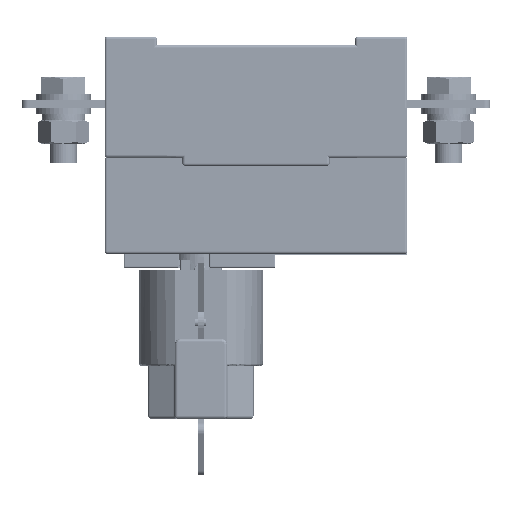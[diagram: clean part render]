
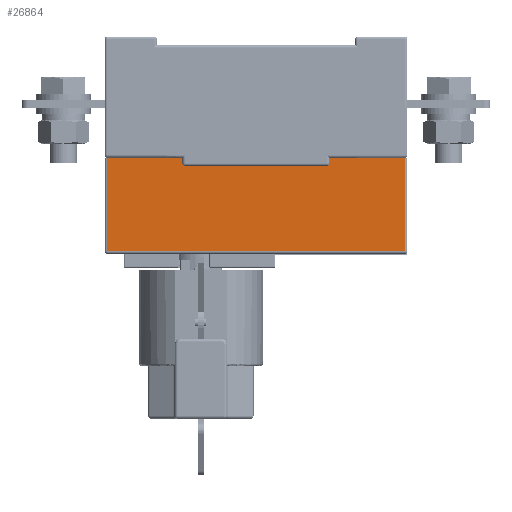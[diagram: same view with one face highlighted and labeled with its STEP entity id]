
A CAD part, front view. The second image highlights one B-rep face of the part: STEP entity #26864.
In plain terms, the highlighted planar face has unit normal (0, -1, 0).
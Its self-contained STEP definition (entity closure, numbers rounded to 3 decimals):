
#25012=DIRECTION('',(0.,0.,1.));
#25013=VECTOR('',#25012,34.);
#25014=CARTESIAN_POINT('',(54.,-37.5,-16.5));
#25015=LINE('',#25014,#25013);
#25016=DIRECTION('',(1.,0.,0.));
#25017=VECTOR('',#25016,108.);
#25018=CARTESIAN_POINT('',(-54.,-37.5,-16.5));
#25019=LINE('',#25018,#25017);
#25020=DIRECTION('',(0.,0.,-1.));
#25021=VECTOR('',#25020,34.);
#25022=CARTESIAN_POINT('',(-54.,-37.5,17.5));
#25023=LINE('',#25022,#25021);
#25024=DIRECTION('',(1.,0.,0.));
#25025=VECTOR('',#25024,108.);
#25026=CARTESIAN_POINT('',(-54.,-37.5,17.5));
#25027=LINE('',#25026,#25025);
#26721=CARTESIAN_POINT('',(54.,-37.5,17.5));
#26723=VERTEX_POINT('',#26721);
#26727=CARTESIAN_POINT('',(54.,-37.5,-16.5));
#26728=VERTEX_POINT('',#26727);
#26730=CARTESIAN_POINT('',(-54.,-37.5,17.5));
#26732=VERTEX_POINT('',#26730);
#26733=CARTESIAN_POINT('',(-54.,-37.5,-16.5));
#26734=VERTEX_POINT('',#26733);
#26849=CARTESIAN_POINT('',(0.,-37.5,0.));
#26850=DIRECTION('',(0.,1.,0.));
#26851=DIRECTION('',(1.,0.,0.));
#26852=AXIS2_PLACEMENT_3D('',#26849,#26850,#26851);
#26853=PLANE('',#26852);
#26855=ORIENTED_EDGE('',*,*,#26854,.F.);
#26857=ORIENTED_EDGE('',*,*,#26856,.F.);
#26859=ORIENTED_EDGE('',*,*,#26858,.F.);
#26861=ORIENTED_EDGE('',*,*,#26860,.T.);
#26862=EDGE_LOOP('',(#26855,#26857,#26859,#26861));
#26863=FACE_OUTER_BOUND('',#26862,.F.);
#26864=ADVANCED_FACE('',(#26863),#26853,.F.);
#26854=EDGE_CURVE('',#26728,#26723,#25015,.T.);
#26856=EDGE_CURVE('',#26734,#26728,#25019,.T.);
#26858=EDGE_CURVE('',#26732,#26734,#25023,.T.);
#26860=EDGE_CURVE('',#26732,#26723,#25027,.T.);
